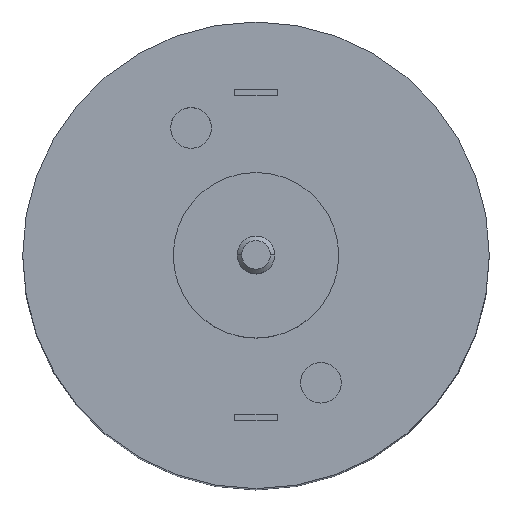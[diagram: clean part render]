
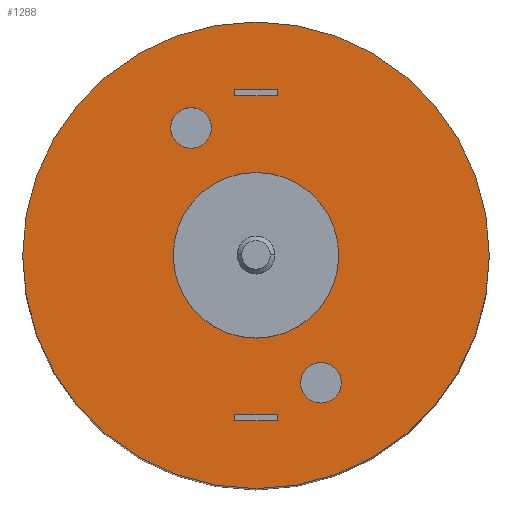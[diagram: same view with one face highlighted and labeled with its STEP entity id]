
A CAD part, top view. The second image highlights one B-rep face of the part: STEP entity #1288.
In plain terms, the highlighted planar face has unit normal (0, 0, 1).
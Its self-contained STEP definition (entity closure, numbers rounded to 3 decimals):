
#11 = ORIENTED_EDGE ( 'NONE', *, *, #1036, .T. ) ;
#23 = VERTEX_POINT ( 'NONE', #1045 ) ;
#34 = DIRECTION ( 'NONE',  ( 1., 0., 0. ) ) ;
#40 = ORIENTED_EDGE ( 'NONE', *, *, #855, .F. ) ;
#53 = FACE_BOUND ( 'NONE', #902, .T. ) ;
#55 = AXIS2_PLACEMENT_3D ( 'NONE', #1292, #773, #34 ) ;
#56 = VECTOR ( 'NONE', #396, 1000. ) ;
#75 = CARTESIAN_POINT ( 'NONE',  ( -1.602, -8.927, 42. ) ) ;
#91 = CARTESIAN_POINT ( 'NONE',  ( -7.102, 1.673, 42. ) ) ;
#96 = EDGE_CURVE ( 'NONE', #279, #331, #1164, .T. ) ;
#97 = EDGE_LOOP ( 'NONE', ( #770, #565, #820, #197 ) ) ;
#101 = CARTESIAN_POINT ( 'NONE',  ( -3.002, -9.127, 42. ) ) ;
#104 = CARTESIAN_POINT ( 'NONE',  ( -1.602, 1.673, 42. ) ) ;
#115 = VERTEX_POINT ( 'NONE', #747 ) ;
#124 = CARTESIAN_POINT ( 'NONE',  ( -17.102, 1.673, 42. ) ) ;
#144 = CARTESIAN_POINT ( 'NONE',  ( -3.002, 12.273, 42. ) ) ;
#152 = EDGE_CURVE ( 'NONE', #279, #115, #729, .T. ) ;
#162 = EDGE_CURVE ( 'NONE', #1172, #594, #879, .T. ) ;
#173 = CIRCLE ( 'NONE', #1013, 15.5 ) ;
#186 = CIRCLE ( 'NONE', #55, 1.35 ) ;
#195 = EDGE_CURVE ( 'NONE', #917, #1336, #927, .T. ) ;
#197 = ORIENTED_EDGE ( 'NONE', *, *, #1311, .T. ) ;
#208 = VECTOR ( 'NONE', #1287, 1000. ) ;
#213 = VERTEX_POINT ( 'NONE', #124 ) ;
#227 = DIRECTION ( 'NONE',  ( 1., 0., 0. ) ) ;
#229 = DIRECTION ( 'NONE',  ( 1., 0., 0. ) ) ;
#233 = VERTEX_POINT ( 'NONE', #284 ) ;
#279 = VERTEX_POINT ( 'NONE', #693 ) ;
#284 = CARTESIAN_POINT ( 'NONE',  ( -7.265, 10.137, 42. ) ) ;
#302 = AXIS2_PLACEMENT_3D ( 'NONE', #1006, #824, #1058 ) ;
#317 = DIRECTION ( 'NONE',  ( 0., 1., 0. ) ) ;
#321 = DIRECTION ( 'NONE',  ( 0., 0., -1. ) ) ;
#326 = DIRECTION ( 'NONE',  ( 0., 1., 0. ) ) ;
#331 = VERTEX_POINT ( 'NONE', #144 ) ;
#345 = DIRECTION ( 'NONE',  ( 1., 0., 0. ) ) ;
#347 = ORIENTED_EDGE ( 'NONE', *, *, #1331, .T. ) ;
#390 = CARTESIAN_POINT ( 'NONE',  ( -1.602, 1.673, 42. ) ) ;
#393 = EDGE_LOOP ( 'NONE', ( #996, #40, #1291, #566 ) ) ;
#396 = DIRECTION ( 'NONE',  ( 1., 0., 0. ) ) ;
#428 = EDGE_CURVE ( 'NONE', #594, #1172, #576, .T. ) ;
#440 = AXIS2_PLACEMENT_3D ( 'NONE', #809, #321, #534 ) ;
#448 = DIRECTION ( 'NONE',  ( 0., -1., 0. ) ) ;
#454 = AXIS2_PLACEMENT_3D ( 'NONE', #390, #1282, #1310 ) ;
#461 = FACE_BOUND ( 'NONE', #393, .T. ) ;
#464 = VECTOR ( 'NONE', #448, 1000. ) ;
#466 = CARTESIAN_POINT ( 'NONE',  ( -5.915, 10.137, 42. ) ) ;
#470 = CARTESIAN_POINT ( 'NONE',  ( 3.898, 1.673, 42. ) ) ;
#472 = VERTEX_POINT ( 'NONE', #1186 ) ;
#486 = CARTESIAN_POINT ( 'NONE',  ( -1.602, 12.273, 42. ) ) ;
#499 = EDGE_CURVE ( 'NONE', #233, #1302, #1098, .T. ) ;
#521 = FACE_BOUND ( 'NONE', #964, .T. ) ;
#534 = DIRECTION ( 'NONE',  ( 1., 0., 0. ) ) ;
#542 = LINE ( 'NONE', #1108, #796 ) ;
#553 = DIRECTION ( 'NONE',  ( 0., 0., -1. ) ) ;
#554 = VECTOR ( 'NONE', #876, 1000. ) ;
#556 = LINE ( 'NONE', #101, #464 ) ;
#565 = ORIENTED_EDGE ( 'NONE', *, *, #654, .T. ) ;
#566 = ORIENTED_EDGE ( 'NONE', *, *, #96, .F. ) ;
#567 = CARTESIAN_POINT ( 'NONE',  ( -4.565, 10.137, 42. ) ) ;
#576 = CIRCLE ( 'NONE', #1205, 5.5 ) ;
#587 = EDGE_CURVE ( 'NONE', #1302, #233, #883, .T. ) ;
#592 = CARTESIAN_POINT ( 'NONE',  ( 13.898, 1.673, 42. ) ) ;
#594 = VERTEX_POINT ( 'NONE', #470 ) ;
#599 = CARTESIAN_POINT ( 'NONE',  ( -0.202, 12.273, 42. ) ) ;
#614 = VERTEX_POINT ( 'NONE', #745 ) ;
#615 = CARTESIAN_POINT ( 'NONE',  ( -5.915, 10.137, 42. ) ) ;
#616 = EDGE_CURVE ( 'NONE', #997, #472, #863, .T. ) ;
#633 = CARTESIAN_POINT ( 'NONE',  ( 4.061, -6.792, 42. ) ) ;
#635 = ORIENTED_EDGE ( 'NONE', *, *, #499, .T. ) ;
#654 = EDGE_CURVE ( 'NONE', #23, #1336, #948, .T. ) ;
#674 = LINE ( 'NONE', #989, #208 ) ;
#675 = CARTESIAN_POINT ( 'NONE',  ( -17.102, -13.827, 42. ) ) ;
#682 = VERTEX_POINT ( 'NONE', #599 ) ;
#693 = CARTESIAN_POINT ( 'NONE',  ( -3.002, 12.673, 42. ) ) ;
#694 = VECTOR ( 'NONE', #774, 1000. ) ;
#729 = LINE ( 'NONE', #1084, #694 ) ;
#745 = CARTESIAN_POINT ( 'NONE',  ( -3.002, -9.327, 42. ) ) ;
#747 = CARTESIAN_POINT ( 'NONE',  ( -0.202, 12.673, 42. ) ) ;
#769 = ORIENTED_EDGE ( 'NONE', *, *, #616, .T. ) ;
#770 = ORIENTED_EDGE ( 'NONE', *, *, #912, .F. ) ;
#773 = DIRECTION ( 'NONE',  ( 0., 0., -1. ) ) ;
#774 = DIRECTION ( 'NONE',  ( 1., 0., 0. ) ) ;
#792 = AXIS2_PLACEMENT_3D ( 'NONE', #615, #875, #229 ) ;
#796 = VECTOR ( 'NONE', #326, 1000. ) ;
#799 = PLANE ( 'NONE',  #994 ) ;
#803 = ORIENTED_EDGE ( 'NONE', *, *, #1056, .T. ) ;
#809 = CARTESIAN_POINT ( 'NONE',  ( 2.711, -6.792, 42. ) ) ;
#820 = ORIENTED_EDGE ( 'NONE', *, *, #195, .F. ) ;
#824 = DIRECTION ( 'NONE',  ( 0., 0., -1. ) ) ;
#841 = FACE_BOUND ( 'NONE', #1104, .T. ) ;
#855 = EDGE_CURVE ( 'NONE', #682, #115, #542, .T. ) ;
#856 = DIRECTION ( 'NONE',  ( 1., 0., 0. ) ) ;
#863 = CIRCLE ( 'NONE', #440, 1.35 ) ;
#875 = DIRECTION ( 'NONE',  ( 0., 0., -1. ) ) ;
#876 = DIRECTION ( 'NONE',  ( 0., -1., 0. ) ) ;
#879 = CIRCLE ( 'NONE', #302, 5.5 ) ;
#881 = FACE_OUTER_BOUND ( 'NONE', #1340, .T. ) ;
#883 = CIRCLE ( 'NONE', #1094, 1.35 ) ;
#884 = VERTEX_POINT ( 'NONE', #592 ) ;
#897 = CIRCLE ( 'NONE', #454, 15.5 ) ;
#902 = EDGE_LOOP ( 'NONE', ( #951, #635 ) ) ;
#912 = EDGE_CURVE ( 'NONE', #23, #614, #556, .T. ) ;
#917 = VERTEX_POINT ( 'NONE', #1215 ) ;
#927 = LINE ( 'NONE', #1284, #1144 ) ;
#948 = LINE ( 'NONE', #75, #56 ) ;
#949 = DIRECTION ( 'NONE',  ( 1., 0., 0. ) ) ;
#951 = ORIENTED_EDGE ( 'NONE', *, *, #587, .T. ) ;
#964 = EDGE_LOOP ( 'NONE', ( #1257, #1047 ) ) ;
#986 = DIRECTION ( 'NONE',  ( 0., 0., -1. ) ) ;
#989 = CARTESIAN_POINT ( 'NONE',  ( -1.602, -9.327, 42. ) ) ;
#994 = AXIS2_PLACEMENT_3D ( 'NONE', #675, #1320, #949 ) ;
#996 = ORIENTED_EDGE ( 'NONE', *, *, #152, .T. ) ;
#997 = VERTEX_POINT ( 'NONE', #633 ) ;
#1006 = CARTESIAN_POINT ( 'NONE',  ( -1.602, 1.673, 42. ) ) ;
#1013 = AXIS2_PLACEMENT_3D ( 'NONE', #1027, #1317, #227 ) ;
#1022 = FACE_BOUND ( 'NONE', #97, .T. ) ;
#1027 = CARTESIAN_POINT ( 'NONE',  ( -1.602, 1.673, 42. ) ) ;
#1036 = EDGE_CURVE ( 'NONE', #884, #213, #173, .T. ) ;
#1045 = CARTESIAN_POINT ( 'NONE',  ( -3.002, -8.927, 42. ) ) ;
#1047 = ORIENTED_EDGE ( 'NONE', *, *, #162, .T. ) ;
#1056 = EDGE_CURVE ( 'NONE', #472, #997, #186, .T. ) ;
#1058 = DIRECTION ( 'NONE',  ( 1., 0., 0. ) ) ;
#1084 = CARTESIAN_POINT ( 'NONE',  ( -1.602, 12.673, 42. ) ) ;
#1094 = AXIS2_PLACEMENT_3D ( 'NONE', #466, #553, #345 ) ;
#1095 = DIRECTION ( 'NONE',  ( 1., 0., 0. ) ) ;
#1098 = CIRCLE ( 'NONE', #792, 1.35 ) ;
#1104 = EDGE_LOOP ( 'NONE', ( #769, #803 ) ) ;
#1108 = CARTESIAN_POINT ( 'NONE',  ( -0.202, 12.473, 42. ) ) ;
#1112 = EDGE_CURVE ( 'NONE', #331, #682, #1183, .T. ) ;
#1144 = VECTOR ( 'NONE', #317, 1000. ) ;
#1164 = LINE ( 'NONE', #1178, #554 ) ;
#1172 = VERTEX_POINT ( 'NONE', #91 ) ;
#1178 = CARTESIAN_POINT ( 'NONE',  ( -3.002, 12.473, 42. ) ) ;
#1183 = LINE ( 'NONE', #486, #1255 ) ;
#1186 = CARTESIAN_POINT ( 'NONE',  ( 1.361, -6.792, 42. ) ) ;
#1205 = AXIS2_PLACEMENT_3D ( 'NONE', #104, #986, #1095 ) ;
#1215 = CARTESIAN_POINT ( 'NONE',  ( -0.202, -9.327, 42. ) ) ;
#1255 = VECTOR ( 'NONE', #856, 1000. ) ;
#1257 = ORIENTED_EDGE ( 'NONE', *, *, #428, .T. ) ;
#1282 = DIRECTION ( 'NONE',  ( 0., 0., 1. ) ) ;
#1284 = CARTESIAN_POINT ( 'NONE',  ( -0.202, -9.127, 42. ) ) ;
#1287 = DIRECTION ( 'NONE',  ( -1., 0., 0. ) ) ;
#1288 = ADVANCED_FACE ( 'NONE', ( #521, #461, #1022, #53, #841, #881 ), #799, .T. ) ;
#1291 = ORIENTED_EDGE ( 'NONE', *, *, #1112, .F. ) ;
#1292 = CARTESIAN_POINT ( 'NONE',  ( 2.711, -6.792, 42. ) ) ;
#1302 = VERTEX_POINT ( 'NONE', #567 ) ;
#1310 = DIRECTION ( 'NONE',  ( 1., 0., 0. ) ) ;
#1311 = EDGE_CURVE ( 'NONE', #917, #614, #674, .T. ) ;
#1317 = DIRECTION ( 'NONE',  ( 0., 0., 1. ) ) ;
#1320 = DIRECTION ( 'NONE',  ( 0., 0., 1. ) ) ;
#1331 = EDGE_CURVE ( 'NONE', #213, #884, #897, .T. ) ;
#1336 = VERTEX_POINT ( 'NONE', #1378 ) ;
#1340 = EDGE_LOOP ( 'NONE', ( #11, #347 ) ) ;
#1378 = CARTESIAN_POINT ( 'NONE',  ( -0.202, -8.927, 42. ) ) ;
